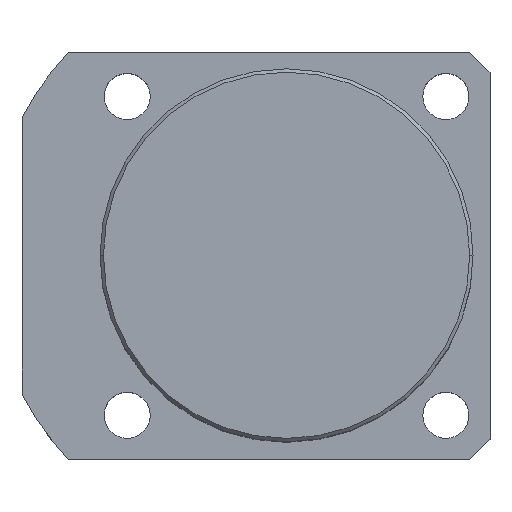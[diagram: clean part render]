
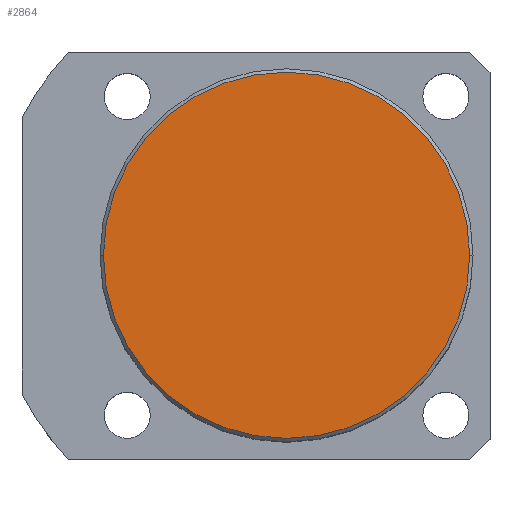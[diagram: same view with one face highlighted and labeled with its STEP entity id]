
A CAD part, top view. The second image highlights one B-rep face of the part: STEP entity #2864.
In plain terms, the highlighted planar face has unit normal (0, 0, 1).
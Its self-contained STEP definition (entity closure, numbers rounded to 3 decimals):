
#84 = AXIS2_PLACEMENT_3D ( 'NONE', #2995, #1427, #4156 ) ;
#139 = ORIENTED_EDGE ( 'NONE', *, *, #2933, .T. ) ;
#243 = AXIS2_PLACEMENT_3D ( 'NONE', #1000, #2970, #3258 ) ;
#336 = VERTEX_POINT ( 'NONE', #4967 ) ;
#839 = AXIS2_PLACEMENT_3D ( 'NONE', #4520, #2160, #4911 ) ;
#1000 = CARTESIAN_POINT ( 'NONE',  ( 0., 0., 60. ) ) ;
#1166 = FACE_OUTER_BOUND ( 'NONE', #2718, .T. ) ;
#1427 = DIRECTION ( 'NONE',  ( 0., 0., 1. ) ) ;
#1790 = EDGE_CURVE ( 'NONE', #336, #4017, #2990, .T. ) ;
#2160 = DIRECTION ( 'NONE',  ( 0., 0., 1. ) ) ;
#2299 = CARTESIAN_POINT ( 'NONE',  ( -27., 0., 60. ) ) ;
#2718 = EDGE_LOOP ( 'NONE', ( #139, #4045 ) ) ;
#2864 = ADVANCED_FACE ( 'NONE', ( #1166 ), #4561, .T. ) ;
#2933 = EDGE_CURVE ( 'NONE', #4017, #336, #4041, .T. ) ;
#2970 = DIRECTION ( 'NONE',  ( 0., 0., 1. ) ) ;
#2990 = CIRCLE ( 'NONE', #243, 27. ) ;
#2995 = CARTESIAN_POINT ( 'NONE',  ( 0., 0., 60. ) ) ;
#3258 = DIRECTION ( 'NONE',  ( 1., 0., 0. ) ) ;
#4017 = VERTEX_POINT ( 'NONE', #2299 ) ;
#4041 = CIRCLE ( 'NONE', #839, 27. ) ;
#4045 = ORIENTED_EDGE ( 'NONE', *, *, #1790, .T. ) ;
#4156 = DIRECTION ( 'NONE',  ( 1., 0., 0. ) ) ;
#4520 = CARTESIAN_POINT ( 'NONE',  ( 0., 0., 60. ) ) ;
#4561 = PLANE ( 'NONE',  #84 ) ;
#4911 = DIRECTION ( 'NONE',  ( 1., 0., 0. ) ) ;
#4967 = CARTESIAN_POINT ( 'NONE',  ( 27., 0., 60. ) ) ;
